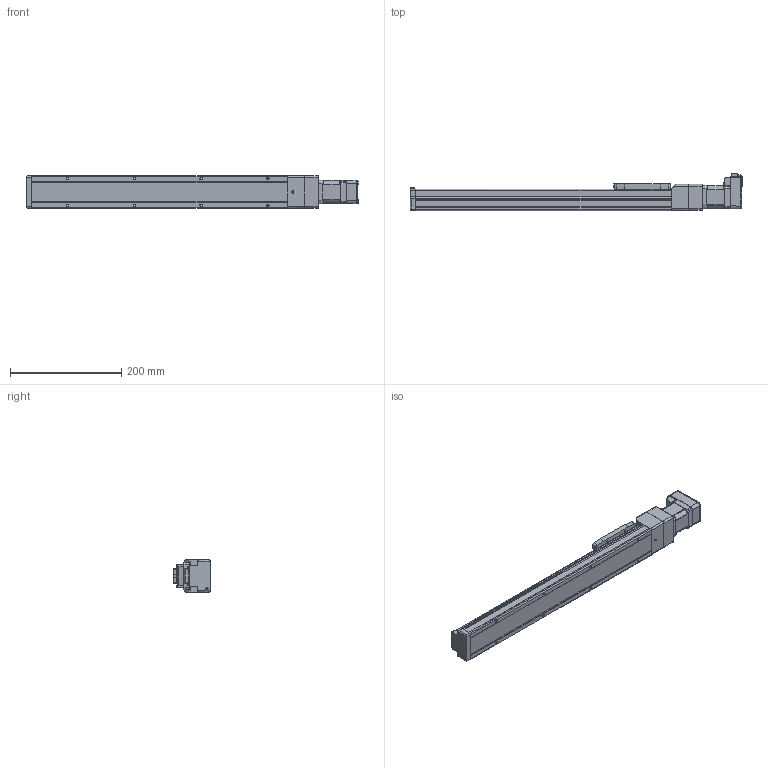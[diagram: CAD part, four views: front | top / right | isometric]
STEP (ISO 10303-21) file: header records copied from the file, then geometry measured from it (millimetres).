
FILE_DESCRIPTION (( 'STEP AP214' ), '1' );
FILE_NAME ('LEFS3(+)-25NM1Œû-350-17L.STEP', '2023-05-31T02:42:09', ( '' ), ( '' ), 'SwSTEP 2.0', 'SolidWorks 2019', '' );
FILE_SCHEMA (( 'AUTOMOTIVE_DESIGN' ));
Length unit declared in the file: millimetre
Products named in the file (5): CM3(+)-17L50A; LEFS3(+)-25NM1口-350-17L; LEFS3(+)-25NM1仩_BODY_350; LEFS3(+)-25NM1_MOTOR Flange; LEFS3(+)-25NM1_TABLE
Assembly tree (4 placements, depth 2):
  LEFS3(+)-25NM1口-350-17L
    LEFS3(+)-25NM1仩_BODY_350
    LEFS3(+)-25NM1_TABLE
    LEFS3(+)-25NM1_MOTOR Flange
    CM3(+)-17L50A
Bounding box: 597.3 x 66.75 x 58 mm (x, y, z)
Volume: 1195932.8 mm3; surface area: 158630.3 mm2
Topology: 5 solids, 5 shells, 995 faces, 2566 edges, 1616 vertices
Faces by surface type: plane 513, cylinder 310, cone 83, torus 39, bspline 29, sphere 21
Entity records: 40380 total; most frequent: CARTESIAN_POINT 7368, ORIENTED_EDGE 5070, DIRECTION 4882, EDGE_CURVE 2535, AXIS2_PLACEMENT_3D 1642, VERTEX_POINT 1616, VECTOR 1598, LINE 1598
